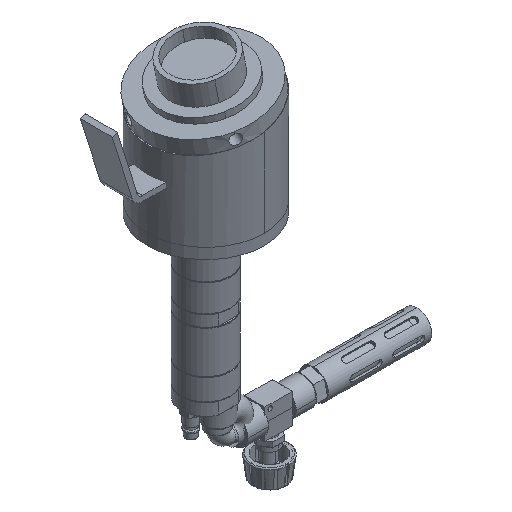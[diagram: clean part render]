
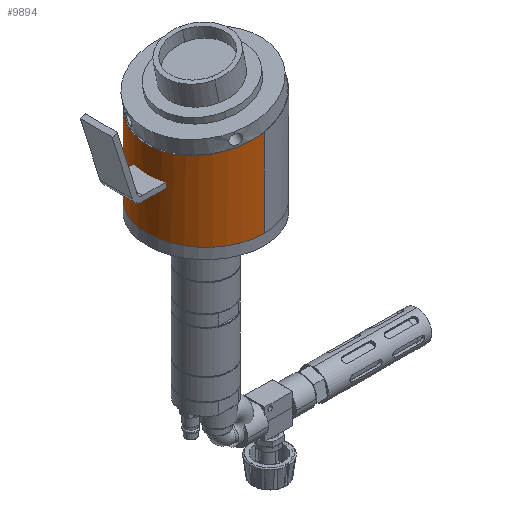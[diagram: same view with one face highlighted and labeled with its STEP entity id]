
A CAD part, isometric view. The second image highlights one B-rep face of the part: STEP entity #9894.
In plain terms, the highlighted cylindrical face has radius 55 mm (diameter 110 mm), a partial arc.
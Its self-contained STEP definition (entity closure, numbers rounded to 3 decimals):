
#232 = DIRECTION ( 'NONE',  ( 0., -1., 0. ) ) ;
#878 = CARTESIAN_POINT ( 'NONE',  ( 0., 93., 55. ) ) ;
#1478 = LINE ( 'NONE', #15436, #4526 ) ;
#2094 = VERTEX_POINT ( 'NONE', #2817 ) ;
#2318 = CARTESIAN_POINT ( 'NONE',  ( 0., 10.5, 55. ) ) ;
#2526 = VERTEX_POINT ( 'NONE', #2318 ) ;
#2808 = DIRECTION ( 'NONE',  ( 0., 1., 0. ) ) ;
#2817 = CARTESIAN_POINT ( 'NONE',  ( 0., 93., -55. ) ) ;
#2848 = DIRECTION ( 'NONE',  ( 0., 0., -1. ) ) ;
#3666 = DIRECTION ( 'NONE',  ( 0., -1., 0. ) ) ;
#3857 = CARTESIAN_POINT ( 'NONE',  ( 0., 10.5, -55. ) ) ;
#4526 = VECTOR ( 'NONE', #14112, 1000. ) ;
#4690 = ORIENTED_EDGE ( 'NONE', *, *, #5679, .T. ) ;
#5037 = ORIENTED_EDGE ( 'NONE', *, *, #5784, .F. ) ;
#5292 = ORIENTED_EDGE ( 'NONE', *, *, #6954, .F. ) ;
#5639 = AXIS2_PLACEMENT_3D ( 'NONE', #10615, #2808, #11908 ) ;
#5647 = EDGE_CURVE ( 'NONE', #2094, #6129, #1478, .T. ) ;
#5679 = EDGE_CURVE ( 'NONE', #6129, #2526, #14125, .T. ) ;
#5784 = EDGE_CURVE ( 'NONE', #2094, #6552, #16725, .T. ) ;
#6129 = VERTEX_POINT ( 'NONE', #11675 ) ;
#6552 = VERTEX_POINT ( 'NONE', #878 ) ;
#6954 = EDGE_CURVE ( 'NONE', #6552, #2526, #13411, .T. ) ;
#7773 = CARTESIAN_POINT ( 'NONE',  ( -110., 31.5, -55. ) ) ;
#8014 = EDGE_LOOP ( 'NONE', ( #5292, #5037, #8253, #4690 ) ) ;
#8172 = AXIS2_PLACEMENT_3D ( 'NONE', #10641, #232, #2848 ) ;
#8253 = ORIENTED_EDGE ( 'NONE', *, *, #5647, .T. ) ;
#8447 = FACE_OUTER_BOUND ( 'NONE', #8014, .T. ) ;
#9059 = CARTESIAN_POINT ( 'NONE',  ( 0., 10.5, 55. ) ) ;
#9894 = ADVANCED_FACE ( 'NONE', ( #8447 ), #11499, .T. ) ;
#9978 = VECTOR ( 'NONE', #3666, 1000. ) ;
#10615 = CARTESIAN_POINT ( 'NONE',  ( 0., 93., 0. ) ) ;
#10641 = CARTESIAN_POINT ( 'NONE',  ( 0., 93., 0. ) ) ;
#11499 = CYLINDRICAL_SURFACE ( 'NONE', #8172, 55. ) ;
#11675 = CARTESIAN_POINT ( 'NONE',  ( 0., 10.5, -55. ) ) ;
#11908 = DIRECTION ( 'NONE',  ( 0., 0., 1. ) ) ;
#13411 = LINE ( 'NONE', #15352, #9978 ) ;
#14112 = DIRECTION ( 'NONE',  ( 0., -1., 0. ) ) ;
#14125 =( BOUNDED_CURVE ( )  B_SPLINE_CURVE ( 3, ( #3857, #7773, #16851, #9059 ),
 .UNSPECIFIED., .F., .F. ) 
 B_SPLINE_CURVE_WITH_KNOTS ( ( 4, 4 ),
 ( 1.571, 4.712 ),
 .UNSPECIFIED. ) 
 CURVE ( )  GEOMETRIC_REPRESENTATION_ITEM ( )  RATIONAL_B_SPLINE_CURVE ( ( 1., 0.333, 0.333, 1. ) ) 
 REPRESENTATION_ITEM ( '' )  );
#15352 = CARTESIAN_POINT ( 'NONE',  ( 0., 93., 55. ) ) ;
#15436 = CARTESIAN_POINT ( 'NONE',  ( 0., 93., -55. ) ) ;
#16725 = CIRCLE ( 'NONE', #5639, 55. ) ;
#16851 = CARTESIAN_POINT ( 'NONE',  ( -110., 31.5, 55. ) ) ;
